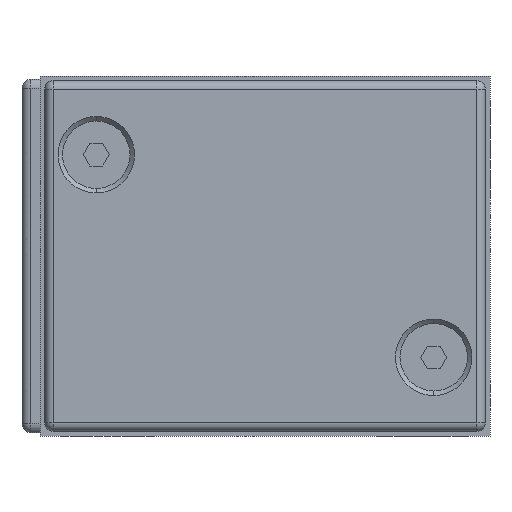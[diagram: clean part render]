
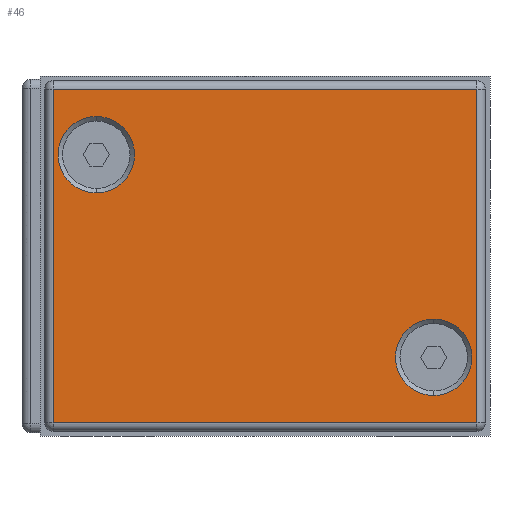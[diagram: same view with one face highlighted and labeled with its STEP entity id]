
A CAD part, front view. The second image highlights one B-rep face of the part: STEP entity #46.
In plain terms, the highlighted planar face has unit normal (0, -1, 0).
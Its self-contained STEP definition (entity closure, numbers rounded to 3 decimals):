
#46 = ADVANCED_FACE ( 'NONE', ( #460, #466, #770 ), #2253, .T. ) ;
#164 = EDGE_LOOP ( 'NONE', ( #2978, #2979 ) ) ;
#166 = EDGE_LOOP ( 'NONE', ( #2980, #2981 ) ) ;
#167 = EDGE_LOOP ( 'NONE', ( #2982, #2983, #2984, #2985 ) ) ;
#460 = FACE_BOUND ( 'NONE', #164, .T. ) ;
#466 = FACE_BOUND ( 'NONE', #166, .T. ) ;
#486 = EDGE_CURVE ( 'NONE', #3159, #3156, #942, .T. ) ;
#499 = EDGE_CURVE ( 'NONE', #3156, #3157, #965, .T. ) ;
#501 = EDGE_CURVE ( 'NONE', #3124, #3126, #970, .T. ) ;
#502 = EDGE_CURVE ( 'NONE', #3123, #3111, #972, .T. ) ;
#503 = EDGE_CURVE ( 'NONE', #3157, #3158, #971, .T. ) ;
#504 = EDGE_CURVE ( 'NONE', #3158, #3159, #973, .T. ) ;
#643 = AXIS2_PLACEMENT_3D ( 'NONE', #2246, #2254, #2255 ) ;
#735 = AXIS2_PLACEMENT_3D ( 'NONE', #2607, #2608, #2609 ) ;
#738 = AXIS2_PLACEMENT_3D ( 'NONE', #2598, #2605, #2606 ) ;
#770 = FACE_OUTER_BOUND ( 'NONE', #167, .T. ) ;
#942 = LINE ( 'NONE', #2571, #943 ) ;
#943 = VECTOR ( 'NONE', #2572, 1000. ) ;
#965 = LINE ( 'NONE', #2600, #966 ) ;
#966 = VECTOR ( 'NONE', #2601, 1000. ) ;
#969 = VECTOR ( 'NONE', #2611, 1000. ) ;
#970 = CIRCLE ( 'NONE', #738, 4.25 ) ;
#971 = LINE ( 'NONE', #2604, #969 ) ;
#972 = CIRCLE ( 'NONE', #735, 4.25 ) ;
#973 = LINE ( 'NONE', #2612, #974 ) ;
#974 = VECTOR ( 'NONE', #2613, 1000. ) ;
#1203 = CIRCLE ( 'NONE', #1390, 4.25 ) ;
#1298 = CIRCLE ( 'NONE', #1413, 4.25 ) ;
#1390 = AXIS2_PLACEMENT_3D ( 'NONE', #1895, #1900, #1901 ) ;
#1413 = AXIS2_PLACEMENT_3D ( 'NONE', #2040, #2043, #2044 ) ;
#1705 = CARTESIAN_POINT ( 'NONE',  ( 6.25, -2., 27. ) ) ;
#1717 = CARTESIAN_POINT ( 'NONE',  ( 6.25, -2., 35.5 ) ) ;
#1718 = CARTESIAN_POINT ( 'NONE',  ( 43.75, -2., 13. ) ) ;
#1720 = CARTESIAN_POINT ( 'NONE',  ( 43.75, -2., 4.5 ) ) ;
#1750 = CARTESIAN_POINT ( 'NONE',  ( 48.5, -2., 1.5 ) ) ;
#1751 = CARTESIAN_POINT ( 'NONE',  ( 48.5, -2., 38.5 ) ) ;
#1752 = CARTESIAN_POINT ( 'NONE',  ( 1.5, -2., 38.5 ) ) ;
#1753 = CARTESIAN_POINT ( 'NONE',  ( 1.5, -2., 1.5 ) ) ;
#1895 = CARTESIAN_POINT ( 'NONE',  ( 6.25, -2., 31.25 ) ) ;
#1900 = DIRECTION ( 'NONE',  ( 0., 1., 0. ) ) ;
#1901 = DIRECTION ( 'NONE',  ( 0., 0., -1. ) ) ;
#2040 = CARTESIAN_POINT ( 'NONE',  ( 43.75, -2., 8.75 ) ) ;
#2043 = DIRECTION ( 'NONE',  ( 0., 1., 0. ) ) ;
#2044 = DIRECTION ( 'NONE',  ( 0., 0., -1. ) ) ;
#2246 = CARTESIAN_POINT ( 'NONE',  ( 1.5, -2., 38.5 ) ) ;
#2253 = PLANE ( 'NONE',  #643 ) ;
#2254 = DIRECTION ( 'NONE',  ( 0., -1., 0. ) ) ;
#2255 = DIRECTION ( 'NONE',  ( 0., 0., -1. ) ) ;
#2571 = CARTESIAN_POINT ( 'NONE',  ( 48.5, -2., 1.5 ) ) ;
#2572 = DIRECTION ( 'NONE',  ( 1., 0., 0. ) ) ;
#2598 = CARTESIAN_POINT ( 'NONE',  ( 43.75, -2., 8.75 ) ) ;
#2600 = CARTESIAN_POINT ( 'NONE',  ( 48.5, -2., 38.5 ) ) ;
#2601 = DIRECTION ( 'NONE',  ( 0., 0., 1. ) ) ;
#2604 = CARTESIAN_POINT ( 'NONE',  ( 1.5, -2., 38.5 ) ) ;
#2605 = DIRECTION ( 'NONE',  ( 0., 1., 0. ) ) ;
#2606 = DIRECTION ( 'NONE',  ( 0., 0., -1. ) ) ;
#2607 = CARTESIAN_POINT ( 'NONE',  ( 6.25, -2., 31.25 ) ) ;
#2608 = DIRECTION ( 'NONE',  ( 0., 1., 0. ) ) ;
#2609 = DIRECTION ( 'NONE',  ( 0., 0., -1. ) ) ;
#2611 = DIRECTION ( 'NONE',  ( -1., 0., 0. ) ) ;
#2612 = CARTESIAN_POINT ( 'NONE',  ( 1.5, -2., 1.5 ) ) ;
#2613 = DIRECTION ( 'NONE',  ( 0., 0., -1. ) ) ;
#2978 = ORIENTED_EDGE ( 'NONE', *, *, #3424, .T. ) ;
#2979 = ORIENTED_EDGE ( 'NONE', *, *, #501, .T. ) ;
#2980 = ORIENTED_EDGE ( 'NONE', *, *, #3364, .T. ) ;
#2981 = ORIENTED_EDGE ( 'NONE', *, *, #502, .T. ) ;
#2982 = ORIENTED_EDGE ( 'NONE', *, *, #499, .T. ) ;
#2983 = ORIENTED_EDGE ( 'NONE', *, *, #503, .T. ) ;
#2984 = ORIENTED_EDGE ( 'NONE', *, *, #504, .T. ) ;
#2985 = ORIENTED_EDGE ( 'NONE', *, *, #486, .T. ) ;
#3111 = VERTEX_POINT ( 'NONE', #1705 ) ;
#3123 = VERTEX_POINT ( 'NONE', #1717 ) ;
#3124 = VERTEX_POINT ( 'NONE', #1718 ) ;
#3126 = VERTEX_POINT ( 'NONE', #1720 ) ;
#3156 = VERTEX_POINT ( 'NONE', #1750 ) ;
#3157 = VERTEX_POINT ( 'NONE', #1751 ) ;
#3158 = VERTEX_POINT ( 'NONE', #1752 ) ;
#3159 = VERTEX_POINT ( 'NONE', #1753 ) ;
#3364 = EDGE_CURVE ( 'NONE', #3111, #3123, #1203, .T. ) ;
#3424 = EDGE_CURVE ( 'NONE', #3126, #3124, #1298, .T. ) ;
